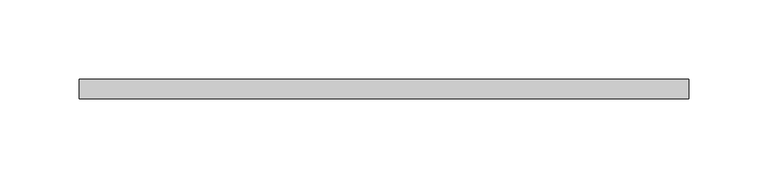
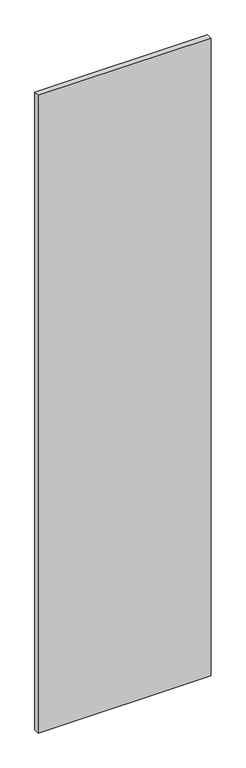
"""IFC4 building model written with IfcOpenShell, lengths in millimetres: proxy geometry, КНАУФ-Суперлист : КНАУФ-Суперлист."""

from ifc_helpers import new_model, si_unit, origin, origin_with_axes, place, context, project, spatial, polyline, outline, extrude, source, transform, mapped, element, save


def generic_models_9ed90865(model_context):
    return source(origin(), model_context, "Body", "SweptSolid", [
        extrude(outline(polyline([(192.5, 0.0), (-192.5, 0.0), (-192.5, 12.5), (192.5, 12.5), (192.5, 0.0)])), origin_with_axes(), (0.0, 0.0, 1.0), 1500.0),
    ])


if __name__ == "__main__":
    model = new_model("IFC4")
    model_context = context("Model", 3, world=origin())
    ifc_project = project(units=[si_unit("LENGTHUNIT", "METRE", prefix="MILLI")], contexts=[model_context])
    site = spatial("IfcSite", under=ifc_project)
    building = spatial("IfcBuilding", under=site)
    placement = place(None, origin())
    generic_models_shape = generic_models_9ed90865(model_context)
    element("IfcBuildingElementProxy", 1, Name="КНАУФ-Суперлист : КНАУФ-Суперлист", ObjectType="КНАУФ-Суперлист : КНАУФ-Суперлист", at=placement, inside=building, context=model_context, shape_type="MappedRepresentation", body=[
        mapped(generic_models_shape, transform((0.0, 0.0, 0.0), x_axis=(1.0, 0.0, 0.0), y_axis=(0.0, 1.0, 0.0), z_axis=(0.0, 0.0, 1.0))),
    ])
    save(model, "model.ifc")
